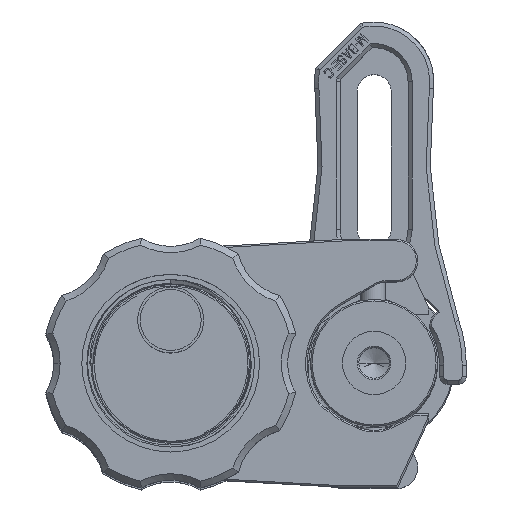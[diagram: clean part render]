
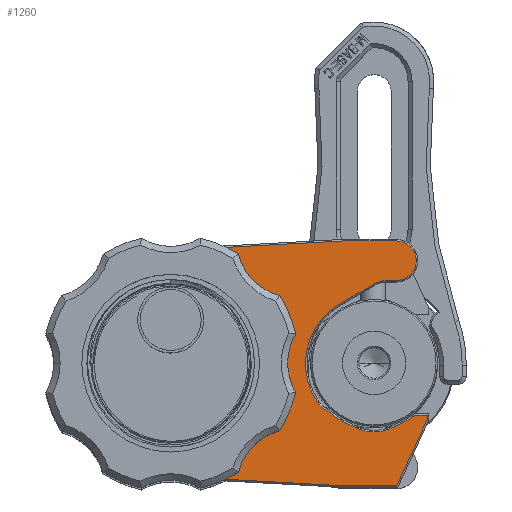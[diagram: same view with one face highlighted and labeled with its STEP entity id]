
A CAD part, top view. The second image highlights one B-rep face of the part: STEP entity #1260.
In plain terms, the highlighted planar face has unit normal (0, 0, 1).
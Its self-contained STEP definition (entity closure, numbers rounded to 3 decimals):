
#256=CARTESIAN_POINT('',(-25.4,0.,5.08));
#257=DIRECTION('',(0.,0.,-1.));
#258=DIRECTION('',(1.,0.,0.));
#259=AXIS2_PLACEMENT_3D('',#256,#257,#258);
#261=CARTESIAN_POINT('',(-25.4,0.,5.08));
#262=DIRECTION('',(0.,0.,-1.));
#263=DIRECTION('',(-1.,0.,0.));
#264=AXIS2_PLACEMENT_3D('',#261,#262,#263);
#266=DIRECTION('',(0.998,-0.055,0.));
#267=VECTOR('',#266,35.317);
#268=CARTESIAN_POINT('',(-26.619,-22.166,5.08));
#269=LINE('',#268,#267);
#270=CARTESIAN_POINT('',(-25.4,0.,5.08));
#271=DIRECTION('',(0.,0.,1.));
#272=DIRECTION('',(-0.055,0.998,0.));
#273=AXIS2_PLACEMENT_3D('',#270,#271,#272);
#275=DIRECTION('',(-0.998,-0.055,0.));
#276=VECTOR('',#275,35.317);
#277=CARTESIAN_POINT('',(8.644,24.106,5.08));
#278=LINE('',#277,#276);
#279=DIRECTION('',(1.,0.,0.));
#280=VECTOR('',#279,10.406);
#281=CARTESIAN_POINT('',(8.644,24.106,5.08));
#282=LINE('',#281,#280);
#283=CARTESIAN_POINT('',(19.05,20.215,5.08));
#284=DIRECTION('',(0.,0.,-1.));
#285=DIRECTION('',(0.,1.,0.));
#286=AXIS2_PLACEMENT_3D('',#283,#284,#285);
#288=DIRECTION('',(-1.,0.,0.));
#289=VECTOR('',#288,1.803);
#290=CARTESIAN_POINT('',(19.05,16.324,5.08));
#291=LINE('',#290,#289);
#292=CARTESIAN_POINT('',(17.247,11.198,5.08));
#293=DIRECTION('',(0.,0.,1.));
#294=DIRECTION('',(0.,1.,0.));
#295=AXIS2_PLACEMENT_3D('',#292,#293,#294);
#297=DIRECTION('',(-0.865,-0.502,0.));
#298=VECTOR('',#297,7.865);
#299=CARTESIAN_POINT('',(14.672,15.631,5.08));
#300=LINE('',#299,#298);
#301=CARTESIAN_POINT('',(7.936,-4.572,5.08));
#302=DIRECTION('',(0.,0.,1.));
#303=DIRECTION('',(-0.827,-0.563,0.));
#304=AXIS2_PLACEMENT_3D('',#301,#302,#303);
#306=CARTESIAN_POINT('',(14.656,0.,5.08));
#307=DIRECTION('',(0.,0.,-1.));
#308=DIRECTION('',(-0.349,-0.937,0.));
#309=AXIS2_PLACEMENT_3D('',#306,#307,#308);
#311=CARTESIAN_POINT('',(14.656,-5.08,5.08));
#312=DIRECTION('',(0.,0.,-1.));
#313=DIRECTION('',(0.538,-0.843,0.));
#314=AXIS2_PLACEMENT_3D('',#311,#312,#313);
#316=CARTESIAN_POINT('',(14.656,0.,5.08));
#317=DIRECTION('',(0.,0.,-1.));
#318=DIRECTION('',(0.617,-0.787,0.));
#319=AXIS2_PLACEMENT_3D('',#316,#317,#318);
#321=DIRECTION('',(1.,0.,0.));
#322=VECTOR('',#321,2.42);
#323=CARTESIAN_POINT('',(22.68,-10.228,5.08));
#324=LINE('',#323,#322);
#325=DIRECTION('',(0.,-1.,0.));
#326=VECTOR('',#325,0.904);
#327=CARTESIAN_POINT('',(25.1,-10.228,5.08));
#328=LINE('',#327,#326);
#329=DIRECTION('',(0.419,0.908,0.));
#330=VECTOR('',#329,14.289);
#331=CARTESIAN_POINT('',(19.112,-24.106,5.08));
#332=LINE('',#331,#330);
#333=DIRECTION('',(-1.,0.,0.));
#334=VECTOR('',#333,10.468);
#335=CARTESIAN_POINT('',(19.112,-24.106,5.08));
#336=LINE('',#335,#334);
#765=CARTESIAN_POINT('',(14.656,0.,5.08));
#766=DIRECTION('',(0.,0.,-1.));
#767=DIRECTION('',(-0.827,-0.563,0.));
#768=AXIS2_PLACEMENT_3D('',#765,#766,#767);
#952=CARTESIAN_POINT('',(-8.59,0.,5.08));
#953=CARTESIAN_POINT('',(-42.21,0.,5.08));
#954=VERTEX_POINT('',#952);
#955=VERTEX_POINT('',#953);
#964=CARTESIAN_POINT('',(-26.619,-22.166,5.08));
#965=CARTESIAN_POINT('',(8.644,-24.106,5.08));
#966=VERTEX_POINT('',#964);
#967=VERTEX_POINT('',#965);
#968=CARTESIAN_POINT('',(-26.619,22.166,5.08));
#969=VERTEX_POINT('',#968);
#972=CARTESIAN_POINT('',(8.644,24.106,5.08));
#973=VERTEX_POINT('',#972);
#976=CARTESIAN_POINT('',(3.487,-7.598,5.08));
#977=CARTESIAN_POINT('',(5.786,-9.504,5.08));
#978=VERTEX_POINT('',#976);
#979=VERTEX_POINT('',#977);
#988=CARTESIAN_POINT('',(14.672,15.631,5.08));
#989=CARTESIAN_POINT('',(7.871,11.68,5.08));
#990=VERTEX_POINT('',#988);
#991=VERTEX_POINT('',#989);
#994=CARTESIAN_POINT('',(17.247,16.324,5.08));
#995=VERTEX_POINT('',#994);
#998=CARTESIAN_POINT('',(19.05,16.324,5.08));
#999=VERTEX_POINT('',#998);
#1002=CARTESIAN_POINT('',(19.05,24.106,5.08));
#1003=VERTEX_POINT('',#1002);
#1004=CARTESIAN_POINT('',(10.119,-12.183,5.08));
#1005=VERTEX_POINT('',#1004);
#1010=CARTESIAN_POINT('',(19.193,-12.183,5.08));
#1011=VERTEX_POINT('',#1010);
#1014=CARTESIAN_POINT('',(22.68,-10.228,5.08));
#1015=VERTEX_POINT('',#1014);
#1016=CARTESIAN_POINT('',(25.1,-10.228,5.08));
#1017=VERTEX_POINT('',#1016);
#1020=CARTESIAN_POINT('',(25.1,-11.132,5.08));
#1021=VERTEX_POINT('',#1020);
#1024=CARTESIAN_POINT('',(19.112,-24.106,5.08));
#1025=VERTEX_POINT('',#1024);
#1214=CARTESIAN_POINT('',(-25.4,0.,5.08));
#1215=DIRECTION('',(0.,0.,1.));
#1216=DIRECTION('',(1.,0.,0.));
#1217=AXIS2_PLACEMENT_3D('',#1214,#1215,#1216);
#1218=PLANE('',#1217);
#1220=ORIENTED_EDGE('',*,*,#1219,.F.);
#1222=ORIENTED_EDGE('',*,*,#1221,.F.);
#1224=ORIENTED_EDGE('',*,*,#1223,.F.);
#1226=ORIENTED_EDGE('',*,*,#1225,.T.);
#1228=ORIENTED_EDGE('',*,*,#1227,.T.);
#1230=ORIENTED_EDGE('',*,*,#1229,.T.);
#1232=ORIENTED_EDGE('',*,*,#1231,.T.);
#1234=ORIENTED_EDGE('',*,*,#1233,.T.);
#1236=ORIENTED_EDGE('',*,*,#1235,.F.);
#1238=ORIENTED_EDGE('',*,*,#1237,.T.);
#1240=ORIENTED_EDGE('',*,*,#1239,.F.);
#1242=ORIENTED_EDGE('',*,*,#1241,.F.);
#1244=ORIENTED_EDGE('',*,*,#1243,.F.);
#1246=ORIENTED_EDGE('',*,*,#1245,.T.);
#1248=ORIENTED_EDGE('',*,*,#1247,.T.);
#1250=ORIENTED_EDGE('',*,*,#1249,.F.);
#1252=ORIENTED_EDGE('',*,*,#1251,.T.);
#1253=EDGE_LOOP('',(#1220,#1222,#1224,#1226,#1228,#1230,#1232,#1234,#1236,#1238,
#1240,#1242,#1244,#1246,#1248,#1250,#1252));
#1254=FACE_OUTER_BOUND('',#1253,.F.);
#1256=ORIENTED_EDGE('',*,*,#1255,.F.);
#1257=ORIENTED_EDGE('',*,*,#1204,.F.);
#1258=EDGE_LOOP('',(#1256,#1257));
#1259=FACE_BOUND('',#1258,.F.);
#1260=ADVANCED_FACE('',(#1254,#1259),#1218,.T.);
#260=CIRCLE('',#259,16.81);
#265=CIRCLE('',#264,16.81);
#274=CIRCLE('',#273,22.2);
#287=CIRCLE('',#286,3.891);
#296=CIRCLE('',#295,5.126);
#305=CIRCLE('',#304,5.38);
#310=CIRCLE('',#309,13.);
#315=CIRCLE('',#314,8.428);
#320=CIRCLE('',#319,13.);
#769=CIRCLE('',#768,13.508);
#1204=EDGE_CURVE('',#955,#954,#265,.T.);
#1219=EDGE_CURVE('',#966,#967,#269,.T.);
#1221=EDGE_CURVE('',#969,#966,#274,.T.);
#1223=EDGE_CURVE('',#973,#969,#278,.T.);
#1225=EDGE_CURVE('',#973,#1003,#282,.T.);
#1227=EDGE_CURVE('',#1003,#999,#287,.T.);
#1229=EDGE_CURVE('',#999,#995,#291,.T.);
#1231=EDGE_CURVE('',#995,#990,#296,.T.);
#1233=EDGE_CURVE('',#990,#991,#300,.T.);
#1235=EDGE_CURVE('',#978,#991,#769,.T.);
#1237=EDGE_CURVE('',#978,#979,#305,.T.);
#1239=EDGE_CURVE('',#1005,#979,#310,.T.);
#1241=EDGE_CURVE('',#1011,#1005,#315,.T.);
#1243=EDGE_CURVE('',#1015,#1011,#320,.T.);
#1245=EDGE_CURVE('',#1015,#1017,#324,.T.);
#1247=EDGE_CURVE('',#1017,#1021,#328,.T.);
#1249=EDGE_CURVE('',#1025,#1021,#332,.T.);
#1251=EDGE_CURVE('',#1025,#967,#336,.T.);
#1255=EDGE_CURVE('',#954,#955,#260,.T.);
